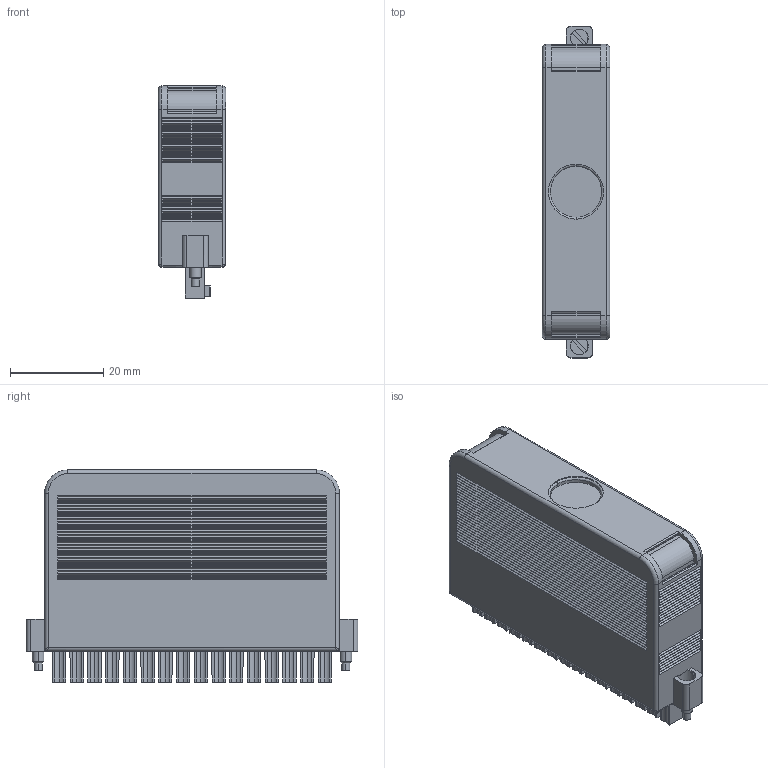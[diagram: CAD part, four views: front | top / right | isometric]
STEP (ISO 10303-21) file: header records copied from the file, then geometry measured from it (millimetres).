
FILE_DESCRIPTION((''),'2;1');
FILE_NAME('CONN_CRIO_16_POS_CMBCN_TB','2007-01-25T',('chrisj'),(''),'PRO/ENGINEER BY PARAMETRIC TECHNOLOGY CORPORATION, 2006080','PRO/ENGINEER BY PARAMETRIC TECHNOLOGY CORPORATION, 2006080','');
FILE_SCHEMA(('AUTOMOTIVE_DESIGN_CC2 { 1 2 10303 214 -1 1 5 2 }'));
Length unit declared in the file: inch
Products named in the file (1): CONN_CRIO_16_POS_CMBCN_TB
Bounding box: 14.5 x 71.35 x 45.6 mm (x, y, z)
Volume: 36016.5 mm3; surface area: 12863.8 mm2
Topology: 1 solids, 1 shells, 1396 faces, 3480 edges, 2263 vertices
Faces by surface type: plane 981, cylinder 329, torus 38, sphere 32, bspline 12, cone 4
Entity records: 42547 total; most frequent: CARTESIAN_POINT 8873, ORIENTED_EDGE 6896, DIRECTION 6875, EDGE_CURVE 3448, VECTOR 2505, LINE 2505, VERTEX_POINT 2263, AXIS2_PLACEMENT_3D 2185
